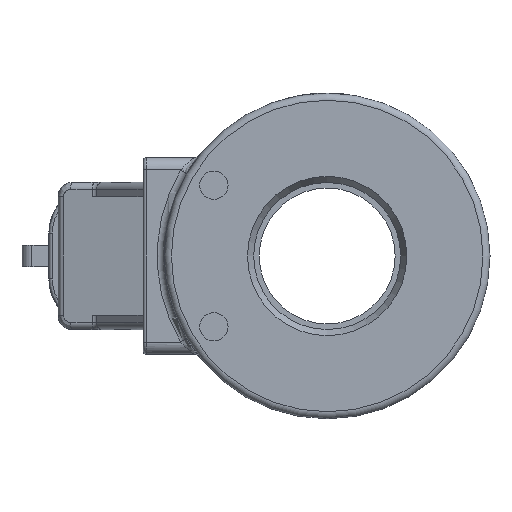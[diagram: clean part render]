
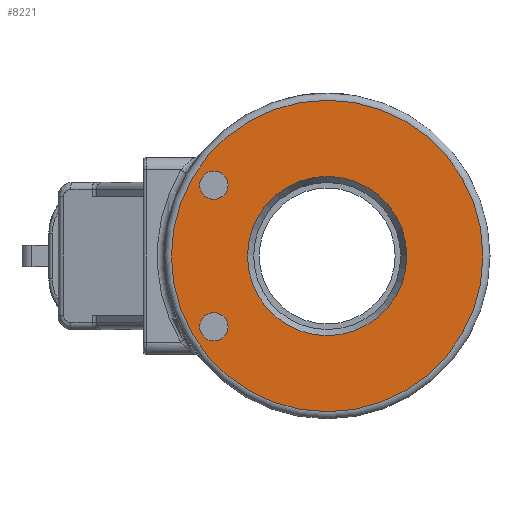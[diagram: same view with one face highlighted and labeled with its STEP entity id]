
A CAD part, left-side view. The second image highlights one B-rep face of the part: STEP entity #8221.
In plain terms, the highlighted planar face has unit normal (-1, 0, 0).
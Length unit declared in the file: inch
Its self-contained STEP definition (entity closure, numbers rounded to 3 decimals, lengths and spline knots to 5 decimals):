
#87=FACE_BOUND('',#1906,.T.);
#88=FACE_BOUND('',#1907,.T.);
#89=FACE_BOUND('',#1908,.T.);
#204=CIRCLE('',#8538,0.07874);
#206=CIRCLE('',#8542,0.07874);
#286=CIRCLE('',#8727,0.44291);
#287=CIRCLE('',#8728,0.44291);
#297=CIRCLE('',#8744,0.86614);
#299=CIRCLE('',#8746,0.86614);
#1401=FACE_OUTER_BOUND('',#1905,.T.);
#1905=EDGE_LOOP('',(#7564,#7565));
#1906=EDGE_LOOP('',(#7566));
#1907=EDGE_LOOP('',(#7567));
#1908=EDGE_LOOP('',(#7568,#7569));
#3785=VERTEX_POINT('',#17298);
#3787=VERTEX_POINT('',#17305);
#3949=VERTEX_POINT('',#18113);
#3950=VERTEX_POINT('',#18115);
#3959=VERTEX_POINT('',#18143);
#3960=VERTEX_POINT('',#18144);
#4883=EDGE_CURVE('',#3785,#3785,#204,.T.);
#4886=EDGE_CURVE('',#3787,#3787,#206,.T.);
#5148=EDGE_CURVE('',#3950,#3949,#286,.T.);
#5149=EDGE_CURVE('',#3949,#3950,#287,.T.);
#5161=EDGE_CURVE('',#3959,#3960,#297,.T.);
#5163=EDGE_CURVE('',#3960,#3959,#299,.T.);
#7564=ORIENTED_EDGE('',*,*,#5161,.F.);
#7565=ORIENTED_EDGE('',*,*,#5163,.F.);
#7566=ORIENTED_EDGE('',*,*,#4883,.T.);
#7567=ORIENTED_EDGE('',*,*,#4886,.T.);
#7568=ORIENTED_EDGE('',*,*,#5148,.T.);
#7569=ORIENTED_EDGE('',*,*,#5149,.T.);
#7763=PLANE('',#8747);
#8221=ADVANCED_FACE('',(#1401,#87,#88,#89),#7763,.F.);
#8538=AXIS2_PLACEMENT_3D('',#17299,#9806,#9807);
#8542=AXIS2_PLACEMENT_3D('',#17306,#9815,#9816);
#8727=AXIS2_PLACEMENT_3D('',#18116,#10347,#10348);
#8728=AXIS2_PLACEMENT_3D('',#18117,#10349,#10350);
#8744=AXIS2_PLACEMENT_3D('',#18145,#10383,#10384);
#8746=AXIS2_PLACEMENT_3D('',#18147,#10387,#10388);
#8747=AXIS2_PLACEMENT_3D('',#18148,#10389,#10390);
#9806=DIRECTION('center_axis',(1.,0.,0.));
#9807=DIRECTION('ref_axis',(0.,0.,-1.));
#9815=DIRECTION('center_axis',(1.,0.,0.));
#9816=DIRECTION('ref_axis',(0.,0.,-1.));
#10347=DIRECTION('center_axis',(1.,0.,0.));
#10348=DIRECTION('ref_axis',(0.,1.,0.));
#10349=DIRECTION('center_axis',(1.,0.,0.));
#10350=DIRECTION('ref_axis',(0.,1.,0.));
#10383=DIRECTION('center_axis',(1.,0.,0.));
#10384=DIRECTION('ref_axis',(0.,-1.,0.));
#10387=DIRECTION('center_axis',(1.,0.,0.));
#10388=DIRECTION('ref_axis',(0.,-1.,0.));
#10389=DIRECTION('center_axis',(1.,0.,0.));
#10390=DIRECTION('ref_axis',(0.,0.,-1.));
#17298=CARTESIAN_POINT('',(-1.1063,0.62992,-0.31496));
#17299=CARTESIAN_POINT('Origin',(-1.1063,0.62992,-0.3937));
#17305=CARTESIAN_POINT('',(-1.1063,0.62992,0.47244));
#17306=CARTESIAN_POINT('Origin',(-1.1063,0.62992,0.3937));
#18113=CARTESIAN_POINT('',(-1.1063,-0.44291,0.));
#18115=CARTESIAN_POINT('',(-1.1063,0.44291,0.));
#18116=CARTESIAN_POINT('Origin',(-1.1063,0.,0.));
#18117=CARTESIAN_POINT('Origin',(-1.1063,0.,0.));
#18143=CARTESIAN_POINT('',(-1.1063,0.86614,0.));
#18144=CARTESIAN_POINT('',(-1.1063,0.,-0.86614));
#18145=CARTESIAN_POINT('Origin',(-1.1063,0.,0.));
#18147=CARTESIAN_POINT('Origin',(-1.1063,0.,0.));
#18148=CARTESIAN_POINT('Origin',(-1.1063,0.,
0.));
